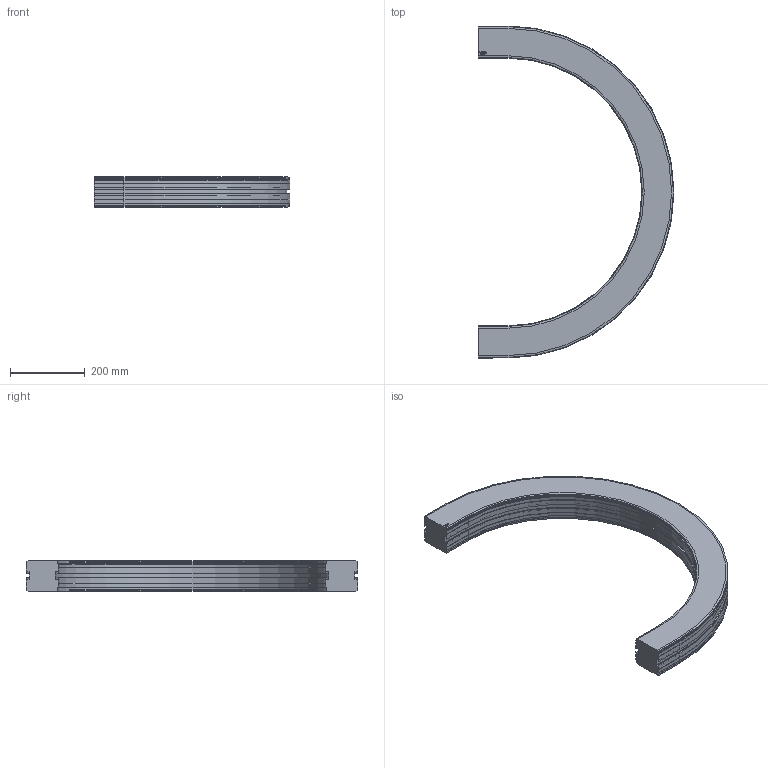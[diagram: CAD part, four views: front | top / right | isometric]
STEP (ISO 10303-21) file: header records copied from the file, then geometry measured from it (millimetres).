
FILE_DESCRIPTION((''),'2;1');
FILE_NAME('C:\Vault Klient\Projekt\Koncept konstruktion\Serie 830 Balk\830-5270.stp','2009-11-27T09:52:22',('Mathias'),(''),'Autodesk Inventor 2010','Autodesk Inventor 2010','');
FILE_SCHEMA(('AUTOMOTIVE_DESIGN { 1 0 10303 214 1 1 1 1 }'));
Length unit declared in the file: millimetre
Products named in the file (1): 830-5270
Bounding box: 523 x 886 x 81.5 mm (x, y, z)
Volume: 9416221.3 mm3; surface area: 592132.5 mm2
Topology: 1 solids, 1 shells, 169 faces, 446 edges, 284 vertices
Faces by surface type: plane 109, cylinder 30, bspline 14, cone 12, torus 4
Entity records: 5295 total; most frequent: CARTESIAN_POINT 1094, ORIENTED_EDGE 892, DIRECTION 802, EDGE_CURVE 446, VECTOR 346, LINE 346, VERTEX_POINT 284, AXIS2_PLACEMENT_3D 228
